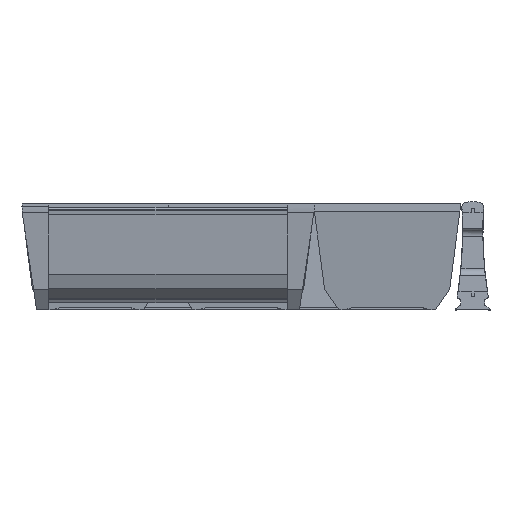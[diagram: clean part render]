
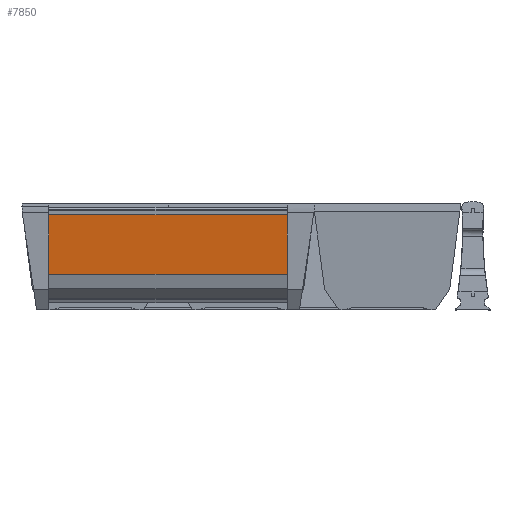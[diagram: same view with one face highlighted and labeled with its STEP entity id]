
A CAD part, front view. The second image highlights one B-rep face of the part: STEP entity #7850.
In plain terms, the highlighted planar face has unit normal (0, -0.991, -0.131).
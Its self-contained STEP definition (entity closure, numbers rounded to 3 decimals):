
#4227 = AXIS2_PLACEMENT_3D ( 'NONE', #22743, #22753, #22754 ) ;
#4279 = VERTEX_POINT ( 'NONE', #11251 ) ;
#4288 = VERTEX_POINT ( 'NONE', #11256 ) ;
#7850 = ADVANCED_FACE ( 'NONE', ( #22046 ), #22744, .F. ) ;
#11251 = CARTESIAN_POINT ( 'NONE',  ( 164.5, 2.926, 61.998 ) ) ;
#11256 = CARTESIAN_POINT ( 'NONE',  ( 16.5, 8.199, 21.942 ) ) ;
#16692 = CARTESIAN_POINT ( 'NONE',  ( 170., 2.926, 61.998 ) ) ;
#16693 = DIRECTION ( 'NONE',  ( -1., 0., 0. ) ) ;
#16732 = CARTESIAN_POINT ( 'NONE',  ( 170., 8.199, 21.942 ) ) ;
#16740 = DIRECTION ( 'NONE',  ( -1., 0., 0. ) ) ;
#16773 = CARTESIAN_POINT ( 'NONE',  ( 16.5, 8.199, 21.942 ) ) ;
#16774 = DIRECTION ( 'NONE',  ( 0., -0.131, 0.991 ) ) ;
#16777 = CARTESIAN_POINT ( 'NONE',  ( 164.5, 8.199, 21.942 ) ) ;
#16778 = DIRECTION ( 'NONE',  ( 0., 0.131, -0.991 ) ) ;
#17647 = LINE ( 'NONE', #16692, #17653 ) ;
#17653 = VECTOR ( 'NONE', #16693, 1000. ) ;
#17684 = LINE ( 'NONE', #16732, #17701 ) ;
#17701 = VECTOR ( 'NONE', #16740, 1000. ) ;
#17723 = LINE ( 'NONE', #16773, #17725 ) ;
#17724 = LINE ( 'NONE', #16777, #17727 ) ;
#17725 = VECTOR ( 'NONE', #16774, 1000. ) ;
#17727 = VECTOR ( 'NONE', #16778, 1000. ) ;
#20286 = ORIENTED_EDGE ( 'NONE', *, *, #21209, .F. ) ;
#20287 = ORIENTED_EDGE ( 'NONE', *, *, #21170, .T. ) ;
#20288 = ORIENTED_EDGE ( 'NONE', *, *, #21207, .F. ) ;
#20289 = ORIENTED_EDGE ( 'NONE', *, *, #21192, .F. ) ;
#20968 = CARTESIAN_POINT ( 'NONE',  ( 16.5, 2.926, 61.998 ) ) ;
#20990 = CARTESIAN_POINT ( 'NONE',  ( 164.5, 8.199, 21.942 ) ) ;
#21170 = EDGE_CURVE ( 'NONE', #4279, #33729, #17647, .T. ) ;
#21192 = EDGE_CURVE ( 'NONE', #33751, #4288, #17684, .T. ) ;
#21207 = EDGE_CURVE ( 'NONE', #4288, #33729, #17723, .T. ) ;
#21209 = EDGE_CURVE ( 'NONE', #4279, #33751, #17724, .T. ) ;
#22046 = FACE_OUTER_BOUND ( 'NONE', #29875, .T. ) ;
#22743 = CARTESIAN_POINT ( 'NONE',  ( 170., 8.199, 21.942 ) ) ;
#22744 = PLANE ( 'NONE',  #4227 ) ;
#22753 = DIRECTION ( 'NONE',  ( 0., 0.991, 0.131 ) ) ;
#22754 = DIRECTION ( 'NONE',  ( 0., -0.131, 0.991 ) ) ;
#29875 = EDGE_LOOP ( 'NONE', ( #20286, #20287, #20288, #20289 ) ) ;
#33729 = VERTEX_POINT ( 'NONE', #20968 ) ;
#33751 = VERTEX_POINT ( 'NONE', #20990 ) ;
